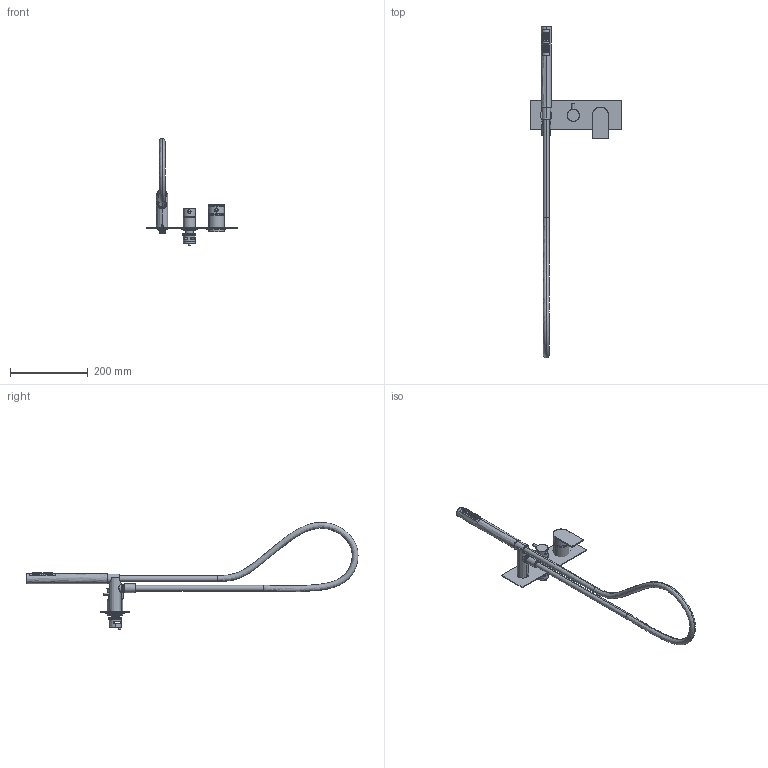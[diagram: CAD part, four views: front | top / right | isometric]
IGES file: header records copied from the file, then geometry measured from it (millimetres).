
Start section:  PTC IGES file: 83529v2_sw0001.igs
Global section: file name: 83529v2_sw0001.igs; native system: Creo Parametric by PTC Inc.; preprocessor: 2022014; author: volponeff; organization: Unknown; date: 20230601.090527; units: millimetre
Bounding box: 235 x 856.76 x 276.42 mm (x, y, z)
Surface area: 172843 mm2 (no closed solid volume)
Topology: 0 solids, 0 shells, 295 faces, 1315 edges, 1311 vertices
Faces by surface type: revolution 230, bspline 65
